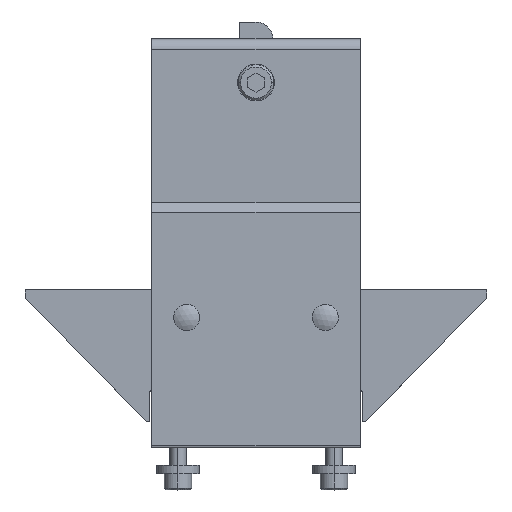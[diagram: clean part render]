
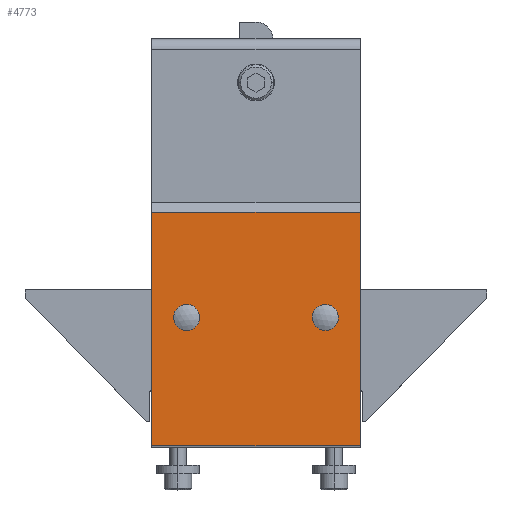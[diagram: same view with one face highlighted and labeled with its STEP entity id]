
A CAD part, top view. The second image highlights one B-rep face of the part: STEP entity #4773.
In plain terms, the highlighted planar face has unit normal (0, 0, 1) as drawn and (-1, 0, 0) by its records, which use the part's own axes.
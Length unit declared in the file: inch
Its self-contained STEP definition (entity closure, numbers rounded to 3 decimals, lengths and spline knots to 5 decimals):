
#3623=DIRECTION('',(0.,-1.,0.));
#3624=VECTOR('',#3623,3.3685);
#3625=CARTESIAN_POINT('',(0.,3.3985,1.5));
#3626=LINE('',#3625,#3624);
#3758=DIRECTION('',(0.,1.,0.));
#3759=VECTOR('',#3758,3.3685);
#3760=CARTESIAN_POINT('',(0.,0.03,-1.5));
#3761=LINE('',#3760,#3759);
#3895=DIRECTION('',(0.,0.,-1.));
#3896=VECTOR('',#3895,3.);
#3897=CARTESIAN_POINT('',(0.,0.03,1.5));
#3898=LINE('',#3897,#3896);
#3903=CARTESIAN_POINT('',(0.,1.881,1.));
#3904=DIRECTION('',(1.,0.,0.));
#3905=DIRECTION('',(0.,0.,1.));
#3906=AXIS2_PLACEMENT_3D('',#3903,#3904,#3905);
#3908=CARTESIAN_POINT('',(0.,1.881,1.));
#3909=DIRECTION('',(1.,0.,0.));
#3910=DIRECTION('',(0.,0.,-1.));
#3911=AXIS2_PLACEMENT_3D('',#3908,#3909,#3910);
#3913=CARTESIAN_POINT('',(0.,1.881,-1.));
#3914=DIRECTION('',(1.,0.,0.));
#3915=DIRECTION('',(0.,0.,1.));
#3916=AXIS2_PLACEMENT_3D('',#3913,#3914,#3915);
#3918=CARTESIAN_POINT('',(0.,1.881,-1.));
#3919=DIRECTION('',(1.,0.,0.));
#3920=DIRECTION('',(0.,0.,-1.));
#3921=AXIS2_PLACEMENT_3D('',#3918,#3919,#3920);
#3923=DIRECTION('',(0.,0.,1.));
#3924=VECTOR('',#3923,3.);
#3925=CARTESIAN_POINT('',(0.,3.3985,-1.5));
#3926=LINE('',#3925,#3924);
#4175=CARTESIAN_POINT('',(0.,1.881,0.903));
#4177=VERTEX_POINT('',#4175);
#4259=CARTESIAN_POINT('',(0.,1.881,-1.097));
#4261=VERTEX_POINT('',#4259);
#4277=CARTESIAN_POINT('',(0.,3.3985,-1.5));
#4279=VERTEX_POINT('',#4277);
#4283=CARTESIAN_POINT('',(0.,1.881,-0.903));
#4284=VERTEX_POINT('',#4283);
#4301=CARTESIAN_POINT('',(0.,0.03,1.5));
#4302=CARTESIAN_POINT('',(0.,0.03,-1.5));
#4303=VERTEX_POINT('',#4301);
#4304=VERTEX_POINT('',#4302);
#4305=CARTESIAN_POINT('',(0.,3.3985,1.5));
#4306=VERTEX_POINT('',#4305);
#4309=CARTESIAN_POINT('',(0.,1.881,1.097));
#4310=VERTEX_POINT('',#4309);
#4751=CARTESIAN_POINT('',(0.,5.8985,-1.5));
#4752=DIRECTION('',(-1.,0.,0.));
#4753=DIRECTION('',(0.,0.,1.));
#4754=AXIS2_PLACEMENT_3D('',#4751,#4752,#4753);
#4755=PLANE('',#4754);
#4756=ORIENTED_EDGE('',*,*,#4573,.T.);
#4758=ORIENTED_EDGE('',*,*,#4757,.T.);
#4759=ORIENTED_EDGE('',*,*,#4451,.T.);
#4760=ORIENTED_EDGE('',*,*,#4743,.T.);
#4761=EDGE_LOOP('',(#4756,#4758,#4759,#4760));
#4762=FACE_OUTER_BOUND('',#4761,.F.);
#4763=ORIENTED_EDGE('',*,*,#4375,.F.);
#4764=ORIENTED_EDGE('',*,*,#4358,.F.);
#4765=EDGE_LOOP('',(#4763,#4764));
#4766=FACE_BOUND('',#4765,.F.);
#4768=ORIENTED_EDGE('',*,*,#4767,.F.);
#4770=ORIENTED_EDGE('',*,*,#4769,.F.);
#4771=EDGE_LOOP('',(#4768,#4770));
#4772=FACE_BOUND('',#4771,.F.);
#3907=CIRCLE('',#3906,0.097);
#3912=CIRCLE('',#3911,0.097);
#3917=CIRCLE('',#3916,0.097);
#3922=CIRCLE('',#3921,0.097);
#4358=EDGE_CURVE('',#4177,#4310,#3912,.T.);
#4375=EDGE_CURVE('',#4310,#4177,#3907,.T.);
#4451=EDGE_CURVE('',#4306,#4303,#3626,.T.);
#4573=EDGE_CURVE('',#4304,#4279,#3761,.T.);
#4743=EDGE_CURVE('',#4303,#4304,#3898,.T.);
#4757=EDGE_CURVE('',#4279,#4306,#3926,.T.);
#4767=EDGE_CURVE('',#4284,#4261,#3917,.T.);
#4769=EDGE_CURVE('',#4261,#4284,#3922,.T.);
#4773=ADVANCED_FACE('',(#4762,#4766,#4772),#4755,.T.);
